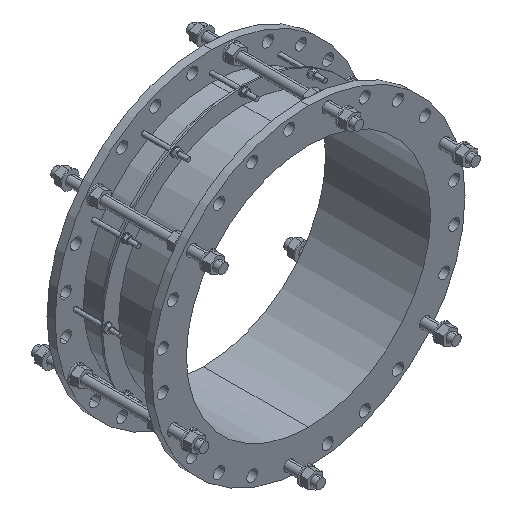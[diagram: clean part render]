
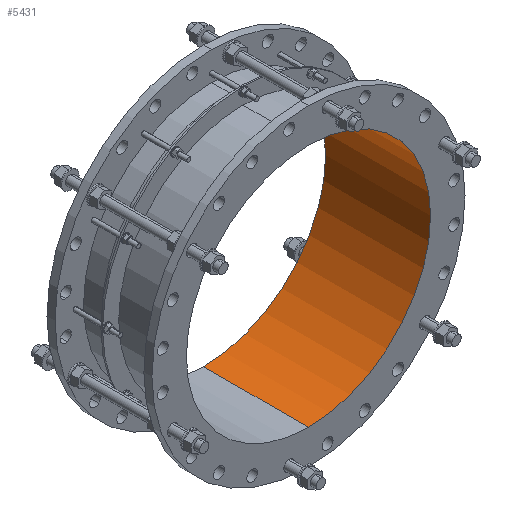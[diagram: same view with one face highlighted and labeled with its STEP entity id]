
A CAD part, isometric view. The second image highlights one B-rep face of the part: STEP entity #5431.
In plain terms, the highlighted cylindrical face has radius 349 mm (diameter 698 mm), a partial arc.
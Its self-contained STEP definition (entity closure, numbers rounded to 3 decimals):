
#7=DIRECTION('',(0.,-1.,0.));
#8=VECTOR('',#7,300.);
#9=CARTESIAN_POINT('',(0.,0.,-349.));
#10=LINE('',#9,#8);
#11=CARTESIAN_POINT('',(0.,0.,0.));
#12=DIRECTION('',(0.,-1.,0.));
#13=DIRECTION('',(0.,0.,-1.));
#14=AXIS2_PLACEMENT_3D('',#11,#12,#13);
#16=DIRECTION('',(0.,-1.,0.));
#17=VECTOR('',#16,300.);
#18=CARTESIAN_POINT('',(0.,0.,349.));
#19=LINE('',#18,#17);
#1698=CARTESIAN_POINT('',(0.,-300.,0.));
#1699=DIRECTION('',(0.,-1.,0.));
#1700=DIRECTION('',(0.,0.,-1.));
#1701=AXIS2_PLACEMENT_3D('',#1698,#1699,#1700);
#4334=CARTESIAN_POINT('',(0.,0.,-349.));
#4335=CARTESIAN_POINT('',(0.,-300.,-349.));
#4336=VERTEX_POINT('',#4334);
#4337=VERTEX_POINT('',#4335);
#4354=CARTESIAN_POINT('',(0.,0.,349.));
#4355=CARTESIAN_POINT('',(0.,-300.,349.));
#4356=VERTEX_POINT('',#4354);
#4357=VERTEX_POINT('',#4355);
#5418=CARTESIAN_POINT('',(0.,-315.,0.));
#5419=DIRECTION('',(0.,1.,0.));
#5420=DIRECTION('',(0.,0.,-1.));
#5421=AXIS2_PLACEMENT_3D('',#5418,#5419,#5420);
#5422=CYLINDRICAL_SURFACE('',#5421,349.);
#5423=ORIENTED_EDGE('',*,*,#5407,.F.);
#5425=ORIENTED_EDGE('',*,*,#5424,.T.);
#5426=ORIENTED_EDGE('',*,*,#5411,.T.);
#5428=ORIENTED_EDGE('',*,*,#5427,.F.);
#5429=EDGE_LOOP('',(#5423,#5425,#5426,#5428));
#5430=FACE_OUTER_BOUND('',#5429,.F.);
#5431=ADVANCED_FACE('',(#5430),#5422,.F.);
#15=CIRCLE('',#14,349.);
#1702=CIRCLE('',#1701,349.);
#5407=EDGE_CURVE('',#4336,#4337,#10,.T.);
#5411=EDGE_CURVE('',#4356,#4357,#19,.T.);
#5424=EDGE_CURVE('',#4336,#4356,#15,.T.);
#5427=EDGE_CURVE('',#4337,#4357,#1702,.T.);
